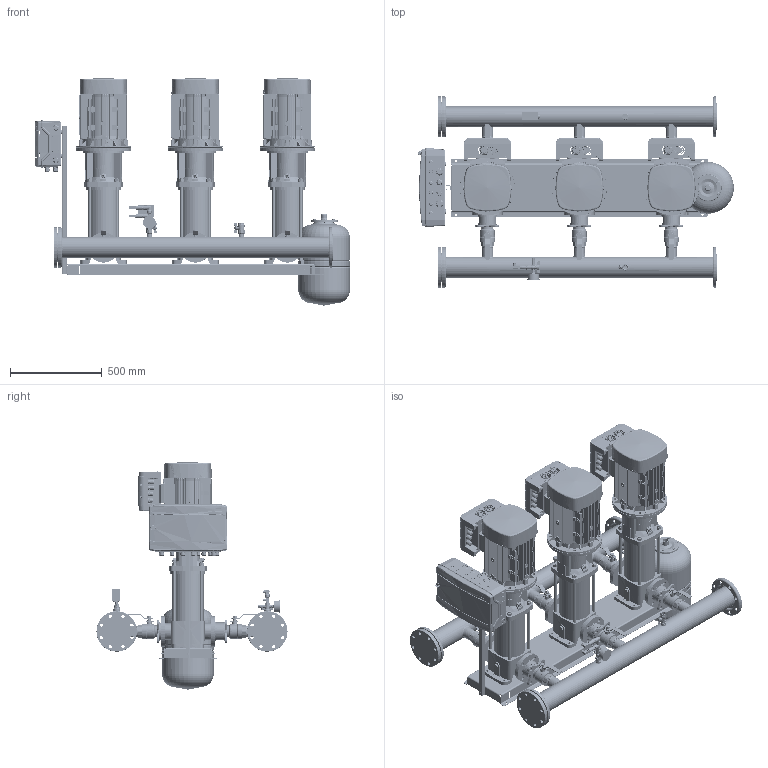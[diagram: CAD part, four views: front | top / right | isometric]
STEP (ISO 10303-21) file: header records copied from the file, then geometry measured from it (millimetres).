
FILE_DESCRIPTION(('CATIA V5 STEP Exchange','CAx-IF Rec.Pracs.--- Model Styling and Organization---1.4--- 2014-01-23','CAx-IF Rec.Pracs.---3D Tessellated Data Validation Properties---0.5---2014-09-14'),'2;1');
FILE_NAME('C:\Users\78432\YandexDisk\Drawings and 3D\3D Hydro Booster\Hydro-ME 3D\Hydro Models\Hydro ME 3 CRV15_20-xx (DIN BV)\Hydro ME 3 CRVE20-6 (DIN BV).stp','2023-09-22T09:36:29+00:00',('none'),('none'),'CATIA Version 5-6 Release 2019 SP6','CATIA V5 STEP AP242 v1','none');
FILE_SCHEMA(('AP242_MANAGED_MODEL_BASED_3D_ENGINEERING_MIM_LF {1 0 10303 442 1 1 4}'));
Products named in the file (44): Hydro ME 3 CRVE20-6 (DIN BV); 92051013; CRV20-6 set (DIN bv); CRV 20-6_A_DIN_7.5kW; Base; Sleeve; Pumphead; Staybolt.1; Staybolt.2; Staybolt.3; Staybolt.4; Plug; AirVent; Motor; 00id2584; 92802785; 99273085; SAJ PDH30 4-7,5kW; 97941454; 405801; 91040271; 91070074; 99110038; 97941491; 00ID6959; Holder and CP 18mod; 92878909; Control ME (18mod); 2 sensors + manometer cpl.; manometr 16 bar; RPD-I-G1_2; 9021-01; 2070 1/2-1/2; _2020 1/2-1/2; 98594078; Tank 24L cpl.; DN20_FF_BF_47.300.20; WAV-24(D140 1''); 9021-03; Relay cpl.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
Assembly tree (56 placements, depth 4):
  Hydro ME 3 CRVE20-6 (DIN BV)
    92051013
    CRV20-6 set (DIN bv)  x3
      CRV 20-6_A_DIN_7.5kW
        Base
        Sleeve
        Pumphead
        Staybolt.1
        Staybolt.2
        Staybolt.3
        Staybolt.4
        Plug
        AirVent
        Motor
      00id2584
      92802785
      99273085
      SAJ PDH30 4-7,5kW
    97941454  x2
      405801
      91040271
      91070074
      99110038
      97941491
    00ID6959  x2
    Holder and CP 18mod
      92878909
      Control ME (18mod)
    2 sensors + manometer cpl.
      manometr 16 bar
      RPD-I-G1_2  x2
      9021-01
      2070 1/2-1/2
      _2020 1/2-1/2
      98594078
    Tank 24L cpl.
      DN20_FF_BF_47.300.20
      9021-03
    Relay cpl.
      Relay RD-2R
      DN20_FF_BF_47.300.20
      2530 3/4-1/2
      _2530 1/2-1/4
    91078139
  WAV-24(D140 1'')
Bounding box: 1716.82 x 1039.37 x 1240.33 mm (x, y, z)
Volume: 92399160.1 mm3; surface area: 14370235.3 mm2
Topology: 318 solids, 405 shells, 32798 faces, 109816 edges, 78747 vertices
Faces by surface type: plane 13264, cylinder 9072, bspline 7413, cone 2058, torus 742, sphere 249
Entity records: 727919 total; most frequent: CARTESIAN_POINT 384719, ORIENTED_EDGE 90103, EDGE_CURVE 45592, DIRECTION 39375, VERTEX_POINT 31325, B_SPLINE_CURVE_WITH_KNOTS 19675, VECTOR 18468, LINE 18468
